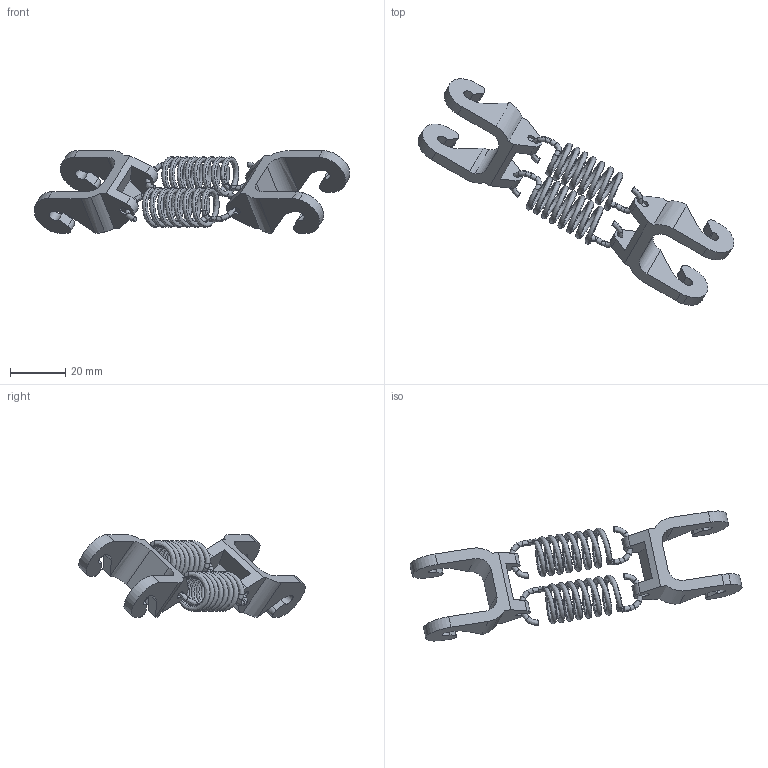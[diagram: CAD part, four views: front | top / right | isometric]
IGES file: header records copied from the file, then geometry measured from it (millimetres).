
Start section: SolidWorks IGES file using analytic representation for surfaces
Global section: file name: C:\Users\SELUHAA\OneDrive - ABB\Work items\609433\IRB360_8-1130-STD-4D_rev03\IRB360_8-1130-STD-4D_rev03_IGS_J\IRB360_8-1130-STD-4D_rev03_LA2_CU_CAD.igs; native system: SolidWorks 2022; preprocessor: SolidWorks 2022; author: SELUHAA; date: 250115.102612; units: millimetre
Bounding box: 114.04 x 81.75 x 29.9 mm (x, y, z)
Volume: 11802.7 mm3; surface area: 10699.5 mm2
Topology: 1 solids, 1 shells, 178 faces, 474 edges, 304 vertices
Faces by surface type: revolution 112, plane 54, bspline 12
